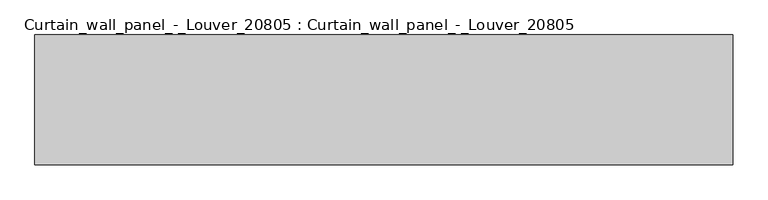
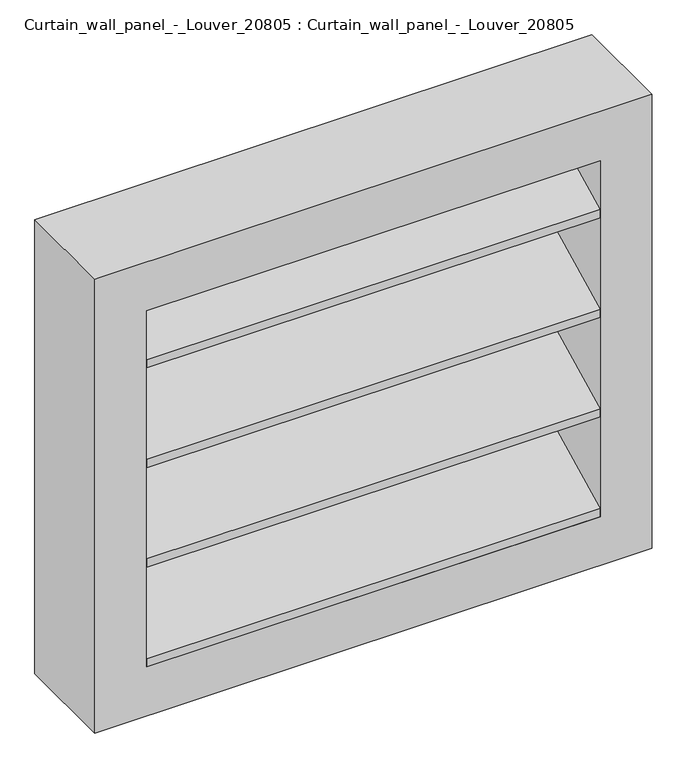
"""IFC4 building model written with IfcOpenShell, lengths in millimetres: plate geometry, Curtain_wall_panel_-_Louver_20805 : Curtain_wall_panel_-_Louver_20805."""

from ifc_helpers import new_model, si_unit, frame, origin, place, context, project, spatial, polyline, outline, extrude, source, transform, mapped, element, save


def curtain_wall_panel_louver_20805_curtain_wall_panel_louver_a21b802a(model_context):
    return source(origin(), model_context, "Body", "SweptSolid", [
        extrude(outline(polyline([(200.0, 605.2950441), (0.0, 505.910046), (0.0, 522.6599789), (200.0, 622.044977), (200.0, 605.2950441)])), frame((-437.2499999, 0.0, 0.0), z_axis=(1.0, 0.0, 0.0), x_axis=(0.0, 1.0, 0.0)), (0.0, 0.0, 1.0), 874.4999999),
        extrude(outline(polyline([(200.0, 402.3400211), (0.0, 302.955023), (0.0, 319.7049559), (200.0, 419.089954), (200.0, 402.3400211)])), frame((-437.2499999, 0.0, 0.0), z_axis=(1.0, 0.0, 0.0), x_axis=(0.0, 1.0, 0.0)), (0.0, 0.0, 1.0), 874.4999999),
        extrude(outline(polyline([(200.0, 808.2500672), (0.0, 708.8650691), (0.0, 725.6150019), (200.0, 825.0), (200.0, 808.2500672)])), frame((-437.2499999, 0.0, 0.0), z_axis=(1.0, 0.0, 0.0), x_axis=(0.0, 1.0, 0.0)), (0.0, 0.0, 1.0), 874.4999999),
        extrude(outline(polyline([(200.0, 199.3849981), (0.0, 100.0), (0.0, 116.7499328), (200.0, 216.1349309), (200.0, 199.3849981)])), frame((-437.2499999, 0.0, 0.0), z_axis=(1.0, 0.0, 0.0), x_axis=(0.0, 1.0, 0.0)), (0.0, 0.0, 1.0), 874.4999999),
        extrude(outline(polyline([(925.0, -537.2499999), (0.0, -537.2499999), (0.0, 537.2499999), (925.0, 537.2499999), (925.0, -537.2499999)]), holes=[polyline([(825.0, -437.2499999), (825.0, 437.2499999), (100.0, 437.2499999), (100.0, -437.2499999), (825.0, -437.2499999)])]), frame((0.0, 0.0, 0.0), z_axis=(0.0, 1.0, 0.0), x_axis=(0.0, 0.0, 1.0)), (0.0, 0.0, 1.0), 200.0),
    ])


if __name__ == "__main__":
    model = new_model("IFC4")
    model_context = context("Model", 3, world=origin())
    ifc_project = project(units=[si_unit("LENGTHUNIT", "METRE", prefix="MILLI")], contexts=[model_context])
    site = spatial("IfcSite", under=ifc_project)
    building = spatial("IfcBuilding", under=site)
    placement = place(None, origin())
    curtain_wall_panel_louver_20805_curtain_wall_panel_louver_shape = curtain_wall_panel_louver_20805_curtain_wall_panel_louver_a21b802a(model_context)
    element("IfcPlate", 1, ObjectType="Curtain_wall_panel_-_Louver_20805 : Curtain_wall_panel_-_Louver_20805", at=placement, inside=building, context=model_context, shape_type="MappedRepresentation", body=[
        mapped(curtain_wall_panel_louver_20805_curtain_wall_panel_louver_shape, transform((0.0, 0.0, 0.0), x_axis=(1.0, 0.0, 0.0), y_axis=(0.0, 1.0, 0.0), z_axis=(0.0, 0.0, 1.0))),
    ])
    save(model, "model.ifc")
